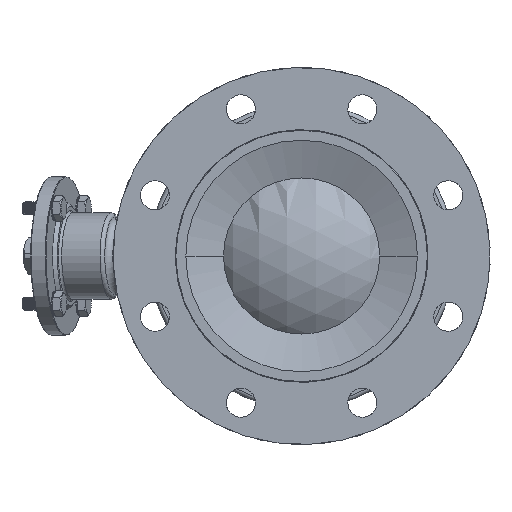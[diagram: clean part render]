
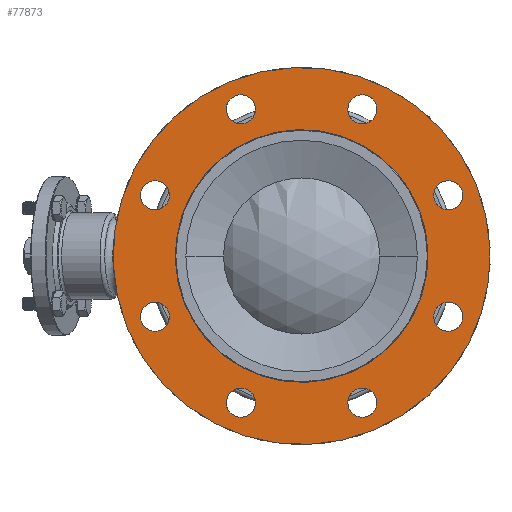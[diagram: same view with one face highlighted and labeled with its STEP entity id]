
A CAD part, left-side view. The second image highlights one B-rep face of the part: STEP entity #77873.
In plain terms, the highlighted planar face has unit normal (-1, 0, 0).
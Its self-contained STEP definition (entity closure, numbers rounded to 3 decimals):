
#3123=CARTESIAN_POINT('',(-70.5,0.,0.));
#3124=DIRECTION('',(-1.,0.,0.));
#3125=DIRECTION('',(0.,0.924,-0.383));
#3126=AXIS2_PLACEMENT_3D('',#3123,#3124,#3125);
#3131=CARTESIAN_POINT('',(-70.5,0.,0.));
#3132=DIRECTION('',(1.,0.,0.));
#3133=DIRECTION('',(0.,0.924,-0.383));
#3134=AXIS2_PLACEMENT_3D('',#3131,#3132,#3133);
#3139=CARTESIAN_POINT('',(-70.5,110.866,-45.922));
#3140=DIRECTION('',(-1.,0.,0.));
#3141=DIRECTION('',(0.,-0.924,0.383));
#3142=AXIS2_PLACEMENT_3D('',#3139,#3140,#3141);
#3147=CARTESIAN_POINT('',(-70.5,110.866,-45.922));
#3148=DIRECTION('',(-1.,0.,0.));
#3149=DIRECTION('',(0.,0.924,-0.383));
#3150=AXIS2_PLACEMENT_3D('',#3147,#3148,#3149);
#3155=CARTESIAN_POINT('',(-70.5,45.922,-110.866));
#3156=DIRECTION('',(-1.,0.,0.));
#3157=DIRECTION('',(0.,-0.383,0.924));
#3158=AXIS2_PLACEMENT_3D('',#3155,#3156,#3157);
#3163=CARTESIAN_POINT('',(-70.5,45.922,-110.866));
#3164=DIRECTION('',(-1.,0.,0.));
#3165=DIRECTION('',(0.,0.383,-0.924));
#3166=AXIS2_PLACEMENT_3D('',#3163,#3164,#3165);
#3171=CARTESIAN_POINT('',(-70.5,-45.922,-110.866));
#3172=DIRECTION('',(-1.,0.,0.));
#3173=DIRECTION('',(0.,0.383,0.924));
#3174=AXIS2_PLACEMENT_3D('',#3171,#3172,#3173);
#3179=CARTESIAN_POINT('',(-70.5,-45.922,-110.866));
#3180=DIRECTION('',(-1.,0.,0.));
#3181=DIRECTION('',(0.,-0.383,-0.924));
#3182=AXIS2_PLACEMENT_3D('',#3179,#3180,#3181);
#3187=CARTESIAN_POINT('',(-70.5,-110.866,-45.922));
#3188=DIRECTION('',(-1.,0.,0.));
#3189=DIRECTION('',(0.,0.924,0.383));
#3190=AXIS2_PLACEMENT_3D('',#3187,#3188,#3189);
#3195=CARTESIAN_POINT('',(-70.5,-110.866,-45.922));
#3196=DIRECTION('',(-1.,0.,0.));
#3197=DIRECTION('',(0.,-0.924,-0.383));
#3198=AXIS2_PLACEMENT_3D('',#3195,#3196,#3197);
#3203=CARTESIAN_POINT('',(-70.5,-110.866,45.922));
#3204=DIRECTION('',(-1.,0.,0.));
#3205=DIRECTION('',(0.,0.924,-0.383));
#3206=AXIS2_PLACEMENT_3D('',#3203,#3204,#3205);
#3211=CARTESIAN_POINT('',(-70.5,-110.866,45.922));
#3212=DIRECTION('',(-1.,0.,0.));
#3213=DIRECTION('',(0.,-0.924,0.383));
#3214=AXIS2_PLACEMENT_3D('',#3211,#3212,#3213);
#3219=CARTESIAN_POINT('',(-70.5,-45.922,110.866));
#3220=DIRECTION('',(-1.,0.,0.));
#3221=DIRECTION('',(0.,0.383,-0.924));
#3222=AXIS2_PLACEMENT_3D('',#3219,#3220,#3221);
#3227=CARTESIAN_POINT('',(-70.5,-45.922,110.866));
#3228=DIRECTION('',(-1.,0.,0.));
#3229=DIRECTION('',(0.,-0.383,0.924));
#3230=AXIS2_PLACEMENT_3D('',#3227,#3228,#3229);
#3235=CARTESIAN_POINT('',(-70.5,45.922,110.866));
#3236=DIRECTION('',(-1.,0.,0.));
#3237=DIRECTION('',(0.,-0.383,-0.924));
#3238=AXIS2_PLACEMENT_3D('',#3235,#3236,#3237);
#3243=CARTESIAN_POINT('',(-70.5,45.922,110.866));
#3244=DIRECTION('',(-1.,0.,0.));
#3245=DIRECTION('',(0.,0.383,0.924));
#3246=AXIS2_PLACEMENT_3D('',#3243,#3244,#3245);
#3251=CARTESIAN_POINT('',(-70.5,110.866,45.922));
#3252=DIRECTION('',(-1.,0.,0.));
#3253=DIRECTION('',(0.,-0.924,-0.383));
#3254=AXIS2_PLACEMENT_3D('',#3251,#3252,#3253);
#3259=CARTESIAN_POINT('',(-70.5,110.866,45.922));
#3260=DIRECTION('',(-1.,0.,0.));
#3261=DIRECTION('',(0.,0.924,0.383));
#3262=AXIS2_PLACEMENT_3D('',#3259,#3260,#3261);
#3274=CARTESIAN_POINT('',(-70.5,0.,0.));
#3275=DIRECTION('',(1.,0.,0.));
#3276=DIRECTION('',(0.,0.924,-0.383));
#3277=AXIS2_PLACEMENT_3D('',#3274,#3275,#3276);
#3305=CARTESIAN_POINT('',(-70.5,0.,0.));
#3306=DIRECTION('',(-1.,0.,0.));
#3307=DIRECTION('',(0.,0.924,-0.383));
#3308=AXIS2_PLACEMENT_3D('',#3305,#3306,#3307);
#76184=CARTESIAN_POINT('',(-70.5,131.653,-54.532));
#76186=VERTEX_POINT('',#76184);
#76188=CARTESIAN_POINT('',(-70.5,-131.653,54.532));
#76190=VERTEX_POINT('',#76188);
#76191=CARTESIAN_POINT('',(-70.5,88.23,-36.546));
#76192=CARTESIAN_POINT('',(-70.5,-88.23,36.546));
#76193=VERTEX_POINT('',#76191);
#76194=VERTEX_POINT('',#76192);
#76195=CARTESIAN_POINT('',(-70.5,100.703,-41.712));
#76196=CARTESIAN_POINT('',(-70.5,121.028,-50.132));
#76197=VERTEX_POINT('',#76195);
#76198=VERTEX_POINT('',#76196);
#76203=CARTESIAN_POINT('',(-70.5,41.712,-100.703));
#76204=CARTESIAN_POINT('',(-70.5,50.132,-121.028));
#76205=VERTEX_POINT('',#76203);
#76206=VERTEX_POINT('',#76204);
#76211=CARTESIAN_POINT('',(-70.5,-41.712,-100.703));
#76212=CARTESIAN_POINT('',(-70.5,-50.132,-121.028));
#76213=VERTEX_POINT('',#76211);
#76214=VERTEX_POINT('',#76212);
#76219=CARTESIAN_POINT('',(-70.5,-100.703,-41.712));
#76220=CARTESIAN_POINT('',(-70.5,-121.028,-50.132));
#76221=VERTEX_POINT('',#76219);
#76222=VERTEX_POINT('',#76220);
#76227=CARTESIAN_POINT('',(-70.5,-100.703,41.712));
#76228=CARTESIAN_POINT('',(-70.5,-121.028,50.132));
#76229=VERTEX_POINT('',#76227);
#76230=VERTEX_POINT('',#76228);
#76235=CARTESIAN_POINT('',(-70.5,-41.712,100.703));
#76236=CARTESIAN_POINT('',(-70.5,-50.132,121.028));
#76237=VERTEX_POINT('',#76235);
#76238=VERTEX_POINT('',#76236);
#76243=CARTESIAN_POINT('',(-70.5,41.712,100.703));
#76244=CARTESIAN_POINT('',(-70.5,50.132,121.028));
#76245=VERTEX_POINT('',#76243);
#76246=VERTEX_POINT('',#76244);
#76251=CARTESIAN_POINT('',(-70.5,100.703,41.712));
#76252=CARTESIAN_POINT('',(-70.5,121.028,50.132));
#76253=VERTEX_POINT('',#76251);
#76254=VERTEX_POINT('',#76252);
#77810=CARTESIAN_POINT('',(-70.5,0.,0.));
#77811=DIRECTION('',(-1.,0.,0.));
#77812=DIRECTION('',(0.,0.924,-0.383));
#77813=AXIS2_PLACEMENT_3D('',#77810,#77811,#77812);
#77814=PLANE('',#77813);
#77815=ORIENTED_EDGE('',*,*,#77796,.F.);
#77816=ORIENTED_EDGE('',*,*,#77778,.T.);
#77817=EDGE_LOOP('',(#77815,#77816));
#77818=FACE_OUTER_BOUND('',#77817,.F.);
#77820=ORIENTED_EDGE('',*,*,#77819,.F.);
#77822=ORIENTED_EDGE('',*,*,#77821,.T.);
#77823=EDGE_LOOP('',(#77820,#77822));
#77824=FACE_BOUND('',#77823,.F.);
#77826=ORIENTED_EDGE('',*,*,#77825,.T.);
#77828=ORIENTED_EDGE('',*,*,#77827,.T.);
#77829=EDGE_LOOP('',(#77826,#77828));
#77830=FACE_BOUND('',#77829,.F.);
#77832=ORIENTED_EDGE('',*,*,#77831,.T.);
#77834=ORIENTED_EDGE('',*,*,#77833,.T.);
#77835=EDGE_LOOP('',(#77832,#77834));
#77836=FACE_BOUND('',#77835,.F.);
#77838=ORIENTED_EDGE('',*,*,#77837,.T.);
#77840=ORIENTED_EDGE('',*,*,#77839,.T.);
#77841=EDGE_LOOP('',(#77838,#77840));
#77842=FACE_BOUND('',#77841,.F.);
#77844=ORIENTED_EDGE('',*,*,#77843,.T.);
#77846=ORIENTED_EDGE('',*,*,#77845,.T.);
#77847=EDGE_LOOP('',(#77844,#77846));
#77848=FACE_BOUND('',#77847,.F.);
#77850=ORIENTED_EDGE('',*,*,#77849,.T.);
#77852=ORIENTED_EDGE('',*,*,#77851,.T.);
#77853=EDGE_LOOP('',(#77850,#77852));
#77854=FACE_BOUND('',#77853,.F.);
#77856=ORIENTED_EDGE('',*,*,#77855,.T.);
#77858=ORIENTED_EDGE('',*,*,#77857,.T.);
#77859=EDGE_LOOP('',(#77856,#77858));
#77860=FACE_BOUND('',#77859,.F.);
#77862=ORIENTED_EDGE('',*,*,#77861,.T.);
#77864=ORIENTED_EDGE('',*,*,#77863,.T.);
#77865=EDGE_LOOP('',(#77862,#77864));
#77866=FACE_BOUND('',#77865,.F.);
#77868=ORIENTED_EDGE('',*,*,#77867,.T.);
#77870=ORIENTED_EDGE('',*,*,#77869,.T.);
#77871=EDGE_LOOP('',(#77868,#77870));
#77872=FACE_BOUND('',#77871,.F.);
#77873=ADVANCED_FACE('',(#77818,#77824,#77830,#77836,#77842,#77848,#77854,
#77860,#77866,#77872),#77814,.T.);
#3127=CIRCLE('',#3126,142.5);
#3135=CIRCLE('',#3134,142.5);
#3143=CIRCLE('',#3142,11.);
#3151=CIRCLE('',#3150,11.);
#3159=CIRCLE('',#3158,11.);
#3167=CIRCLE('',#3166,11.);
#3175=CIRCLE('',#3174,11.);
#3183=CIRCLE('',#3182,11.);
#3191=CIRCLE('',#3190,11.);
#3199=CIRCLE('',#3198,11.);
#3207=CIRCLE('',#3206,11.);
#3215=CIRCLE('',#3214,11.);
#3223=CIRCLE('',#3222,11.);
#3231=CIRCLE('',#3230,11.);
#3239=CIRCLE('',#3238,11.);
#3247=CIRCLE('',#3246,11.);
#3255=CIRCLE('',#3254,11.);
#3263=CIRCLE('',#3262,11.);
#3278=CIRCLE('',#3277,95.5);
#3309=CIRCLE('',#3308,95.5);
#77778=EDGE_CURVE('',#76186,#76190,#3135,.T.);
#77796=EDGE_CURVE('',#76186,#76190,#3127,.T.);
#77819=EDGE_CURVE('',#76193,#76194,#3278,.T.);
#77821=EDGE_CURVE('',#76193,#76194,#3309,.T.);
#77825=EDGE_CURVE('',#76197,#76198,#3143,.T.);
#77827=EDGE_CURVE('',#76198,#76197,#3151,.T.);
#77831=EDGE_CURVE('',#76205,#76206,#3159,.T.);
#77833=EDGE_CURVE('',#76206,#76205,#3167,.T.);
#77837=EDGE_CURVE('',#76213,#76214,#3175,.T.);
#77839=EDGE_CURVE('',#76214,#76213,#3183,.T.);
#77843=EDGE_CURVE('',#76221,#76222,#3191,.T.);
#77845=EDGE_CURVE('',#76222,#76221,#3199,.T.);
#77849=EDGE_CURVE('',#76229,#76230,#3207,.T.);
#77851=EDGE_CURVE('',#76230,#76229,#3215,.T.);
#77855=EDGE_CURVE('',#76237,#76238,#3223,.T.);
#77857=EDGE_CURVE('',#76238,#76237,#3231,.T.);
#77861=EDGE_CURVE('',#76245,#76246,#3239,.T.);
#77863=EDGE_CURVE('',#76246,#76245,#3247,.T.);
#77867=EDGE_CURVE('',#76253,#76254,#3255,.T.);
#77869=EDGE_CURVE('',#76254,#76253,#3263,.T.);
